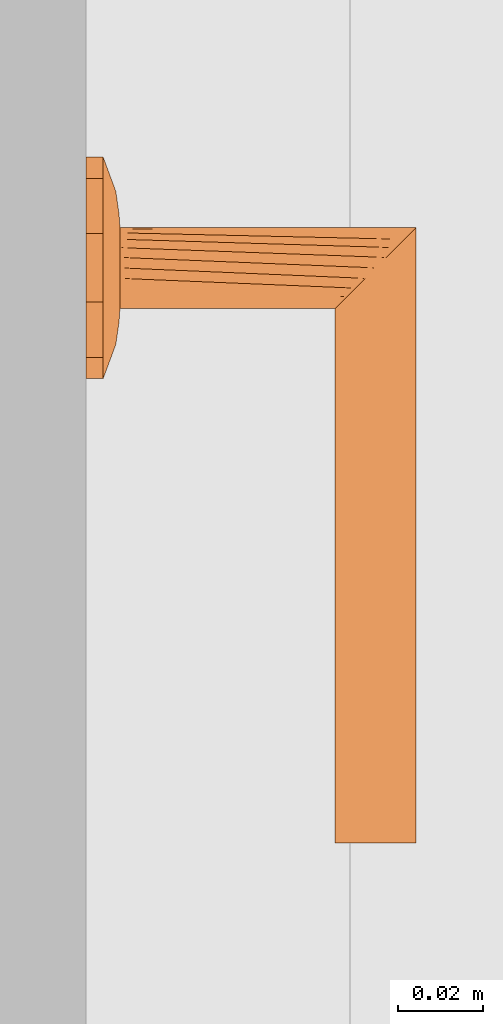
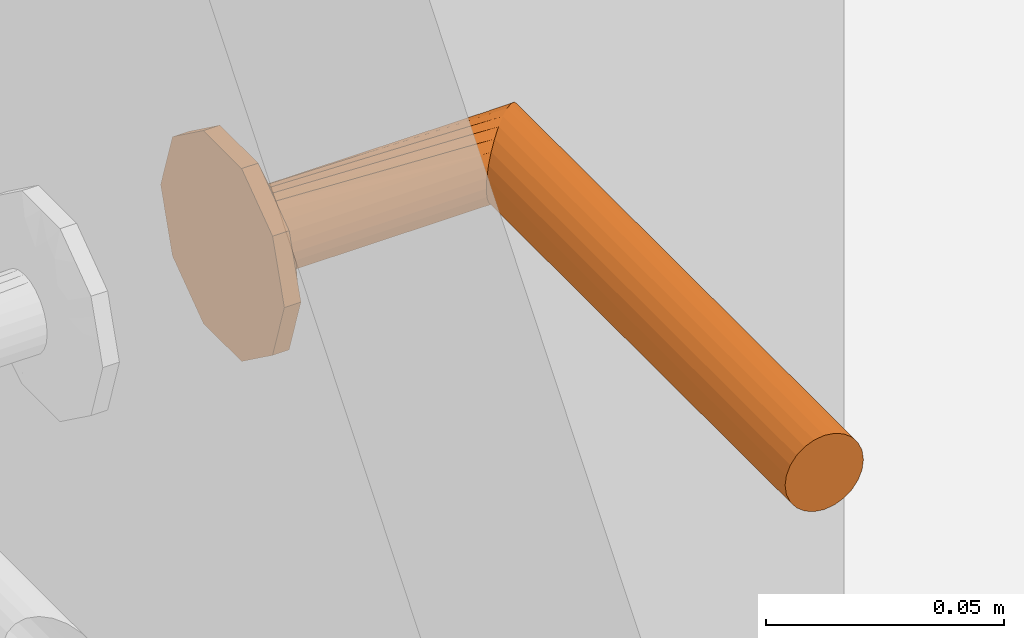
# One storey, part 37 of 42: 1 proxy.
"""IFC2X3 building model written with IfcOpenShell, lengths in millimetres."""

from ifc_helpers import new_model, entity, si_unit, converted_unit, direction, frame, origin, place, context, subcontext, project, spatial, faceted_brep, source, transform, mapped, material, type_object, type_shapes, element, save


model = new_model("IFC2X3")

# Units and contexts
model_context = context("Model", 3, precision=0.01, world=origin(), true_north=direction((6.123233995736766e-17, 1.0)))
plan_context = context("Plan", 3, precision=0.01, world=origin(), true_north=direction((6.123233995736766e-17, 1.0)))
body_context = subcontext(model_context, "Body", "Model", "MODEL_VIEW")
ifc_project = project(units=[si_unit("LENGTHUNIT", "METRE", prefix="MILLI"), converted_unit("PLANEANGLEUNIT", "DEGREE", entity("IfcPlaneAngleMeasure", 0.017453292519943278), si_unit("PLANEANGLEUNIT", "RADIAN"), dimensions=[0, 0, 0, 0, 0, 0, 0]), si_unit("AREAUNIT", "SQUARE_METRE")], contexts=[model_context, plan_context])

# Site, building, storey
site_placement = place(None, origin())
site = spatial("IfcSite", under=ifc_project, at=site_placement, Name="Default", CompositionType="ELEMENT")
building_placement = place(site_placement, origin())
building = spatial("IfcBuilding", under=site, at=building_placement, CompositionType="ELEMENT")
storey_placement = place(building_placement, frame((0.0, 0.0, 9465.000076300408)))
storey = spatial("IfcBuildingStorey", under=building, at=storey_placement, Name="4K", CompositionType="ELEMENT", Elevation=9465.000076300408)

# Proxy
ifc_material = material(Name="<Unnamed>")
building_element_proxy_type = type_object("IfcBuildingElementProxyType", Name="Door-handle_Lever_ABLOY_INOXI_3-19ss-002_RT:Default", PredefinedType="NOTDEFINED", material=ifc_material)
shared_shape = source(origin(), body_context, "Body", "Brep", [
    faceted_brep([(0.0, 0.0, 0.0), (21.034441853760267, -15.282416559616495, 0.0), (14.534441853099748, -20.00494299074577, 0.0), (8.034441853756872, -24.72746942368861, 0.0), (0.0, -24.72746942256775, 0.0), (23.51722092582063, -7.6412082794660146, 0.0), (26.0, 0.0, 0.0), (-8.034441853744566, -24.727469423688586, 0.0), (-14.534441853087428, -20.00494299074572, 0.0), (-21.03444185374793, -15.282416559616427, 0.0), (-23.517220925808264, -7.641208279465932, 0.0), (-26.0, 0.0, 0.0), (-23.517220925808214, 7.641208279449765, 0.0), (23.517220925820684, 7.641208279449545, 0.0), (21.034441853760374, 15.282416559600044, 0.0), (14.53444185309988, 20.00494299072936, 0.0), (8.034441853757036, 24.72746942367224, 0.0), (-21.034441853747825, 15.282416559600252, 0.0), (-14.53444185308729, 20.004942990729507, 0.0), (-8.0344418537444, 24.72746942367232, 0.0), (0.0, 24.72746942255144, 0.0), (0.0, 0.0, 8.0), (4.7500000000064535, -8.227241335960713, 8.0), (5.937500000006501, -6.170431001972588, 8.0), (7.125000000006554, -4.113620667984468, 8.0), (8.312500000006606, -2.0568103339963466, 8.0), (9.500000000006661, 0.0, 8.0), (8.312500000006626, 2.056810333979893, 8.0), (2.3750000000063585, -8.227241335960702, 8.0), (0.0, -8.227241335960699, 8.0), (-2.3749999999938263, -8.227241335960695, 8.0), (-4.749999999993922, -8.227241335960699, 8.0), (-5.937499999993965, -6.170431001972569, 8.0), (-7.124999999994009, -4.113620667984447, 8.0), (-8.312499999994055, -2.056810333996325, 8.0), (-9.499999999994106, 0.0, 8.0), (7.125000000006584, 4.113620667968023, 8.0), (5.937500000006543, 6.170431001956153, 8.0), (4.750000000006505, 8.227241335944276, 8.0), (2.3750000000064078, 8.22724133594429, 8.0), (-8.31249999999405, 2.0568103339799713, 8.0), (-7.12499999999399, 4.113620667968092, 8.0), (-5.9374999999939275, 6.170431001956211, 8.0), (-4.74999999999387, 8.227241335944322, 8.0), (0.0, 8.227241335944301, 8.0), (-2.374999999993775, 8.227241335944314, 8.0), (-22.488765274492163, -10.806469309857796, 4.030771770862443), (-16.663919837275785, -7.932665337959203, 6.877259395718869), (-20.643071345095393, -6.292822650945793, 5.929480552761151), (-12.50457926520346, -5.179566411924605, 7.774932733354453), (-16.764060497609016, -3.820257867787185, 7.1747985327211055), (-9.071726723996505, -10.311606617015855, 7.7520782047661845), (-11.963426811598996, -8.625290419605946, 7.618343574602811), (-11.979136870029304, -13.678312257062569, 6.945778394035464), (5.7585542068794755, -20.96753300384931, 5.871476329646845), (0.0, -24.72746942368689, 4.030771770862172), (8.03444185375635, -24.727469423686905, 4.030771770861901), (16.66391982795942, -7.932665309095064, 6.877259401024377), (22.488765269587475, -10.806469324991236, 4.03077177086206), (20.64307133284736, -6.29282258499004, 5.929480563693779), (14.534441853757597, -20.004942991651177, 4.030771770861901), (9.499431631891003, -18.64368355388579, 6.154325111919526), (-15.783149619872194, -11.991003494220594, 6.50080018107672), (-21.034441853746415, -15.282416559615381, 4.030771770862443), (-14.53444185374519, -20.00494299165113, 4.030771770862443), (-23.012042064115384, 0.0, 5.135401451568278), (-23.943088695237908, -6.330522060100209, 4.030771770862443), (11.96342678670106, -8.62529049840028, 7.618343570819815), (12.504579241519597, -5.179566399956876, 7.774932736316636), (16.764060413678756, -3.8202578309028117, 7.17479855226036), (15.783149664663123, -11.991003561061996, 6.50080015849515), (17.985351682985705, 0.0, 6.993737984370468), (23.012042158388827, 0.0, 5.135401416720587), (8.661516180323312, -10.478936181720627, 7.768126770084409), (-8.03444185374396, -24.727469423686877, 4.030771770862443), (-3.3573143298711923, -21.197247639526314, 5.971427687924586), (-9.941915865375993, -17.061976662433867, 6.522757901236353), (-5.973257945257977, -16.430139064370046, 7.110979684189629), (-7.711266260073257, -12.760344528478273, 7.594456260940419), (11.979136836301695, -13.678312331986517, 6.945778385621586), (7.511307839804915, -13.358932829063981, 7.529187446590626), (5.953298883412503, -16.50608604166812, 7.096344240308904), (-1.5654593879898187, -15.307443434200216, 7.519134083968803), (-7.784980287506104, -20.476295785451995, 5.812837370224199), (2.8135289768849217, -17.76392260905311, 6.993737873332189), (-17.98535168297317, 0.0, 6.993737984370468), (-26.0, 0.0, 4.030771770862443), (-23.51722092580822, -7.641208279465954, 4.030771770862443), (23.943088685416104, -6.33052209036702, 4.030771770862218), (24.308823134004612, -5.204907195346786, 4.030771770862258), (26.0, 0.0, 4.030771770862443), (21.03444185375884, -15.282416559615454, 4.030771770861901), (22.617646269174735, -10.40981439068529, 4.030771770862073), (22.488765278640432, 10.806469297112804, 4.030771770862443), (16.66391984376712, 7.932665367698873, 6.877259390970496), (20.643071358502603, 6.292822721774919, 5.929480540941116), (12.504579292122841, 5.179566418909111, 7.774932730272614), (16.764060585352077, 3.8202579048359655, 7.174798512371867), (9.07172672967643, 10.31160659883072, 7.752078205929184), (11.963426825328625, 8.62529034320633, 7.618343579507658), (11.979136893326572, 13.67831220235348, 6.9457784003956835), (-5.758554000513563, 20.96753314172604, 5.8714763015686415), (0.0, 24.72746942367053, 4.030771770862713), (-8.03444185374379, 24.72746942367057, 4.030771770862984), (-16.663919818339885, 7.932665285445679, 6.877259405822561), (-22.48876526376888, 10.806469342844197, 4.030771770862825), (-20.643071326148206, 6.2928225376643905, 5.929480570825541), (-14.534441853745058, 20.004942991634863, 4.030771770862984), (-9.499431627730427, 18.643683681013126, 6.154325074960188), (15.783149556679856, 11.991003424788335, 6.5008002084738), (21.03444185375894, 15.282416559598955, 4.030771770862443), (14.534441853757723, 20.004942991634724, 4.030771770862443), (23.943088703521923, 6.330522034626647, 4.030771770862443), (-11.96342675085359, 8.625290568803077, 7.618343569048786), (-12.504579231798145, 5.179566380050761, 7.77493273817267), (-16.764060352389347, 3.820257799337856, 7.174798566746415), (-15.78314967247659, 11.991003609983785, 6.500800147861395), (-8.661516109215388, 10.478936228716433, 7.768126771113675), (8.034441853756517, 24.727469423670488, 4.030771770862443), (3.3573144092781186, 21.197247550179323, 5.971427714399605), (9.941915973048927, 17.061976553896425, 6.522757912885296), (5.9732581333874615, 16.430139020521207, 7.110979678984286), (7.711266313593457, 12.760344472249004, 7.5944562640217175), (-11.979136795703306, 13.678312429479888, 6.945778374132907), (-7.511307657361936, 13.358932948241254, 7.5291874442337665), (-5.9532988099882, 16.50608628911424, 7.096344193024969), (1.5654596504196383, 15.3074431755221, 7.519134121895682), (7.784980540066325, 20.476295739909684, 5.812837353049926), (-2.81352881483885, 17.76392263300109, 6.993737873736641), (23.51722092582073, 7.6412082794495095, 4.030771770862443), (-23.94308867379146, 6.330522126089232, 4.030771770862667), (-24.308823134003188, 5.20490719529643, 4.030771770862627), (-21.034441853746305, 15.282416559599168, 4.030771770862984), (-22.617646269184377, 10.409814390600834, 4.0307717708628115)], [[[0, 1, 2]], [[0, 2, 3]], [[0, 3, 4]], [[0, 5, 1]], [[0, 6, 5]], [[0, 4, 7]], [[0, 7, 8]], [[0, 8, 9]], [[0, 9, 10]], [[0, 10, 11]], [[0, 11, 12]], [[0, 13, 6]], [[0, 14, 13]], [[0, 15, 14]], [[0, 16, 15]], [[0, 12, 17]], [[0, 17, 18]], [[0, 18, 19]], [[0, 19, 20]], [[0, 20, 16]], [[21, 22, 23]], [[21, 23, 24]], [[21, 24, 25]], [[21, 25, 26]], [[21, 26, 27]], [[21, 28, 22]], [[21, 29, 28]], [[21, 30, 29]], [[21, 31, 30]], [[21, 32, 31]], [[21, 33, 32]], [[21, 34, 33]], [[21, 35, 34]], [[21, 27, 36]], [[21, 36, 37]], [[21, 37, 38]], [[21, 38, 39]], [[21, 40, 35]], [[21, 41, 40]], [[21, 42, 41]], [[21, 43, 42]], [[21, 39, 44]], [[21, 44, 45]], [[21, 45, 43]], [[46, 47, 48]], [[47, 49, 50]], [[49, 33, 34]], [[51, 52, 53]], [[49, 52, 33]], [[48, 47, 50]], [[54, 55, 56]], [[57, 58, 59]], [[56, 60, 61]], [[62, 63, 64]], [[65, 66, 48]], [[67, 57, 68]], [[68, 69, 25]], [[57, 67, 70]], [[69, 26, 25]], [[62, 53, 52]], [[71, 69, 72]], [[67, 23, 73]], [[74, 55, 75]], [[76, 77, 78]], [[79, 60, 70]], [[69, 59, 72]], [[80, 81, 61]], [[77, 30, 78]], [[82, 30, 77]], [[28, 80, 22]], [[77, 83, 75]], [[75, 82, 77]], [[55, 84, 75]], [[85, 50, 35]], [[24, 68, 25]], [[82, 84, 29]], [[84, 82, 75]], [[31, 78, 30]], [[82, 29, 30]], [[34, 35, 50]], [[52, 49, 47]], [[62, 52, 47]], [[34, 50, 49]], [[53, 78, 51]], [[32, 33, 52]], [[85, 65, 50]], [[66, 65, 86]], [[67, 68, 24]], [[77, 76, 83]], [[65, 48, 50]], [[63, 62, 46]], [[48, 66, 87, 46]], [[62, 47, 46]], [[69, 68, 57]], [[80, 73, 22]], [[70, 67, 79]], [[67, 24, 23]], [[72, 88, 89, 90]], [[69, 71, 26]], [[59, 69, 57]], [[61, 60, 79]], [[62, 64, 53]], [[91, 58, 70]], [[72, 59, 88]], [[57, 70, 58]], [[59, 58, 92]], [[80, 61, 79]], [[91, 70, 60]], [[61, 81, 54]], [[73, 80, 79]], [[28, 84, 81]], [[67, 73, 79]], [[29, 84, 28]], [[22, 73, 23]], [[51, 31, 32]], [[76, 78, 53]], [[53, 64, 76]], [[83, 64, 74]], [[64, 83, 76]], [[75, 83, 74]], [[31, 51, 78]], [[52, 51, 32]], [[28, 81, 80]], [[54, 81, 84]], [[55, 54, 84]], [[61, 54, 56]], [[93, 94, 95]], [[94, 96, 97]], [[96, 36, 27]], [[98, 99, 100]], [[96, 99, 36]], [[95, 94, 97]], [[101, 102, 103]], [[104, 105, 106]], [[103, 107, 108]], [[109, 110, 111]], [[72, 112, 95]], [[113, 104, 114]], [[114, 115, 40]], [[104, 113, 116]], [[115, 35, 40]], [[109, 100, 99]], [[85, 115, 65]], [[113, 42, 117]], [[118, 102, 119]], [[120, 121, 122]], [[123, 107, 116]], [[115, 106, 65]], [[124, 125, 108]], [[121, 39, 122]], [[126, 39, 121]], [[45, 124, 43]], [[121, 127, 119]], [[119, 126, 121]], [[102, 128, 119]], [[71, 97, 26]], [[41, 114, 40]], [[126, 128, 44]], [[128, 126, 119]], [[38, 122, 39]], [[126, 44, 39]], [[27, 26, 97]], [[99, 96, 94]], [[109, 99, 94]], [[27, 97, 96]], [[100, 122, 98]], [[37, 36, 99]], [[71, 72, 97]], [[112, 72, 90]], [[113, 114, 41]], [[121, 120, 127]], [[72, 95, 97]], [[110, 109, 93]], [[95, 112, 129, 93]], [[109, 94, 93]], [[115, 114, 104]], [[124, 117, 43]], [[116, 113, 123]], [[113, 41, 42]], [[65, 130, 131, 86]], [[115, 85, 35]], [[106, 115, 104]], [[108, 107, 123]], [[109, 111, 100]], [[132, 105, 116]], [[65, 106, 130]], [[104, 116, 105]], [[106, 105, 133]], [[124, 108, 123]], [[132, 116, 107]], [[108, 125, 101]], [[117, 124, 123]], [[45, 128, 125]], [[113, 117, 123]], [[44, 128, 45]], [[43, 117, 42]], [[98, 38, 37]], [[120, 122, 100]], [[100, 111, 120]], [[127, 111, 118]], [[111, 127, 120]], [[119, 127, 118]], [[38, 98, 122]], [[99, 98, 37]], [[45, 125, 124]], [[101, 125, 128]], [[102, 101, 128]], [[108, 101, 103]], [[7, 74, 64, 63, 9, 8]], [[10, 9, 63, 46, 87, 66, 86, 11]], [[6, 90, 89, 88, 92, 1, 5]], [[1, 58, 91]], [[74, 7, 4, 3, 56, 55]], [[60, 56, 3, 2, 1, 91]], [[1, 92, 58]], [[14, 110, 93, 129, 112, 90, 6, 13]], [[111, 110, 14, 15, 16, 118]], [[11, 86, 131, 130, 133, 17, 12]], [[17, 105, 132]], [[118, 16, 20, 19, 103, 102]], [[107, 103, 19, 18, 17, 132]], [[17, 133, 105]], [[59, 92, 88]], [[106, 133, 130]]]),
    faceted_brep([(4.7499999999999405, -8.22724133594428, 8.0), (2.4587809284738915, -9.176295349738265, 8.0), (0.0, -9.499999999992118, 8.0), (-2.4587809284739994, -9.176295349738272, 8.0), (-4.7500000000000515, -8.227241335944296, 8.0), (-6.717514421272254, -6.717514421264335, 8.0), (-8.227241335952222, -4.74999999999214, 8.0), (-9.176295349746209, -2.4587809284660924, 8.0), (-9.500000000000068, 0.0, 8.0), (-9.176295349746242, 2.458780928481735, 8.0), (-8.227241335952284, 4.750000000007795, 8.0), (-6.717514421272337, 6.717514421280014, 8.0), (-4.750000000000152, 8.227241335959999, 8.0), (-2.4587809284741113, 9.176295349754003, 8.0), (0.0, 9.500000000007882, 8.0), (2.4587809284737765, 9.176295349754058, 8.0), (4.7499999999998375, 8.227241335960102, 8.0), (6.717514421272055, 6.717514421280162, 8.0), (8.22724133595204, 4.75000000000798, 8.0), (9.17629534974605, 2.458780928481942, 8.0), (9.499999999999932, 0.0, 8.0), (9.17629534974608, -2.458780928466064, 8.0), (8.227241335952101, -4.749999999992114, 8.0), (6.717514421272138, -6.7175144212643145, 8.0), (-8.227241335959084, 4.7499999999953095, 59.772758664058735), (-6.717514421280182, 6.7175144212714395, 61.282485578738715), (-9.176295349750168, 2.458780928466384, 58.82370465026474), (-4.750000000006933, 8.227241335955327, 63.25000000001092), (-2.4587809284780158, 9.176295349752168, 65.54121907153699), (-9.500000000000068, 0.0, 58.50000000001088), (0.0, 9.50000000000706, 68.0), (4.750000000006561, 8.227241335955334, 72.75000000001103), (2.4587809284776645, 9.17629534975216, 70.45878092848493), (6.717514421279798, 6.7175144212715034, 74.71751442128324), (8.22724133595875, 4.749999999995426, 76.22724133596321), (9.17629534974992, 2.458780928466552, 77.17629534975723), (9.499999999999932, 0.0, 77.50000000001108), (9.176295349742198, -2.4587809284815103, 77.1762953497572), (8.227241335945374, -4.750000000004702, 76.22724133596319), (6.7175144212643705, -6.717514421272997, 74.7175144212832), (4.749999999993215, -8.227241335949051, 72.75000000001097), (2.4587809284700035, -9.17629534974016, 70.45878092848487), (0.0, -9.49999999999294, 68.0), (-2.4587809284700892, -9.176295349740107, 65.54121907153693), (-4.749999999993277, -8.227241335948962, 63.250000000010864), (-6.717514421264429, -6.717514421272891, 61.282485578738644), (-9.176295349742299, -2.458780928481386, 58.8237046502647), (-8.227241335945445, -4.750000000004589, 59.77275866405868), (-135.0, -9.176295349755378, 70.4587809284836), (-135.0, -8.227241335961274, 72.75000000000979), (-135.0, -6.717514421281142, 74.71751442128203), (-135.0, -4.750000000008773, 76.22724133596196), (-135.0, -2.4587809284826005, 77.17629534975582), (-135.0, 0.0, 77.5000000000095), (-135.0, 2.4587809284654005, 77.17629534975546), (-135.0, 4.749999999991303, 76.22724133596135), (-135.0, 6.717514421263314, 74.71751442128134), (-135.0, 8.227241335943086, 72.75000000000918), (-135.0, 9.17629534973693, 70.45878092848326), (-135.0, 9.499999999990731, 68.0), (-135.0, 9.17629534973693, 65.54121907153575), (-135.0, 8.227241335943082, 63.250000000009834), (-135.0, 6.717514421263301, 61.28248557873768), (-135.0, 4.749999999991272, 59.772758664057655), (-135.0, 2.458780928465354, 58.823704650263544), (-135.0, 0.0, 58.50000000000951), (-135.0, -2.458780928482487, 58.82370465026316), (-135.0, -4.750000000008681, 59.772758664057), (-135.0, -6.7175144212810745, 61.28248557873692), (-135.0, -8.227241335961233, 63.25000000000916), (-135.0, -9.176295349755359, 65.54121907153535), (-135.0, -9.500000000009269, 68.0)], [[[0, 1, 2, 3, 4, 5, 6, 7, 8, 9, 10, 11, 12, 13, 14, 15, 16, 17, 18, 19, 20, 21, 22, 23]], [[24, 25, 11, 10]], [[26, 24, 10, 9]], [[14, 27, 28]], [[13, 27, 14]], [[25, 27, 13]], [[29, 26, 9, 8]], [[12, 11, 25]], [[25, 13, 12]], [[28, 30, 15]], [[31, 17, 32]], [[33, 18, 31]], [[19, 34, 35]], [[33, 34, 19]], [[20, 19, 35, 36]], [[16, 15, 30]], [[14, 28, 15]], [[19, 18, 33]], [[17, 31, 18]], [[17, 16, 32]], [[30, 32, 16]], [[20, 36, 37, 21]], [[38, 21, 37]], [[22, 39, 40]], [[38, 39, 21]], [[23, 40, 41]], [[39, 22, 21]], [[1, 42, 43]], [[42, 1, 0]], [[23, 41, 0]], [[23, 22, 40]], [[41, 42, 0]], [[44, 45, 3]], [[43, 44, 2]], [[46, 29, 8, 7]], [[47, 46, 7, 6]], [[45, 47, 6, 5]], [[45, 4, 3]], [[3, 2, 44]], [[5, 4, 45]], [[43, 2, 1]], [[48, 49, 50, 51, 52, 53, 54, 55, 56, 57, 58, 59, 60, 61, 62, 63, 64, 65, 66, 67, 68, 69, 70, 71]], [[64, 63, 24, 26]], [[65, 64, 26, 29]], [[61, 60, 28, 27]], [[62, 61, 27, 25]], [[63, 62, 25, 24]], [[59, 30, 28, 60]], [[57, 56, 33, 31]], [[58, 57, 31, 32]], [[54, 53, 36, 35]], [[55, 54, 35, 34]], [[56, 55, 34, 33]], [[32, 30, 59, 58]], [[52, 51, 38, 37]], [[53, 52, 37, 36]], [[49, 48, 41, 40]], [[50, 49, 40, 39]], [[51, 50, 39, 38]], [[42, 41, 48, 71]], [[69, 68, 45, 44]], [[70, 69, 44, 43]], [[66, 65, 29, 46]], [[67, 66, 46, 47]], [[68, 67, 47, 45]], [[42, 71, 70, 43]]]),
])
type_shapes(building_element_proxy_type, [shared_shape])
proxy_placement = place(storey_placement, frame((11924.99353497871, 3710.0, 1000.0), z_axis=(1.0, 0.0, 0.0), x_axis=(0.0, 1.0, 0.0)))
element("IfcBuildingElementProxy", 1, at=proxy_placement, inside=storey, type_object=building_element_proxy_type, material=ifc_material, Name="Door-handle_Lever_ABLOY_INOXI_3-19ss-002_RT:Default", ObjectType="Door-handle_Lever_ABLOY_INOXI_3-19ss-002_RT:Default", context=body_context, shape_type="MappedRepresentation", body=[
    mapped(shared_shape, transform((0.0, 0.0, 0.0), scale=1.0)),
])

save(model, "model.ifc")
